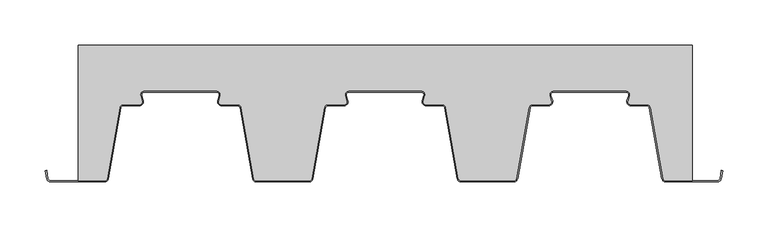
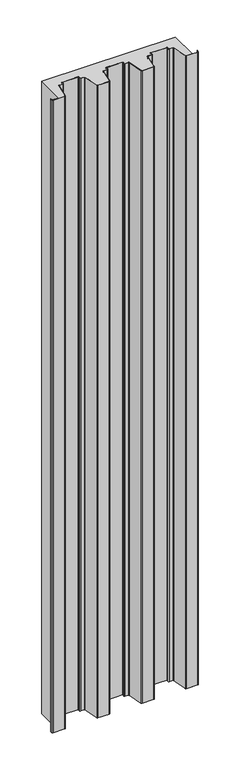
"""IFC4 building model written with IfcOpenShell, lengths in millimetres: plate geometry, HIANSA- H20.F10.003 - FORJADO COLABORANTE - MT-100 - Panel de Muro Cortina : -."""

from ifc_helpers import new_model, si_unit, point, frame_2d, origin, origin_with_axes, place, context, project, spatial, polyline, circle_curve, trimmed, segment, composite_curve, outline, extrude, source, transform, mapped, element, save


def plate_80f7fc45(model_context):
    return source(origin(), model_context, "Body", "SweptSolid", [
        extrude(outline(composite_curve([segment(polyline([(337.4999998, 150.0), (337.4999998, 1.2), (308.5242183, 1.2)]), True, "CONTINUOUS"), segment(trimmed(circle_curve(frame_2d((308.5242183, 4.2)), 3.0), [point((308.5242183, 1.2))], [point((305.569795, 3.6790555))], False, "CARTESIAN"), True, "CONTINUOUS"), segment(polyline([(305.569795, 3.6790555), (291.8426925, 81.5293223)]), True, "CONTINUOUS"), segment(trimmed(circle_curve(frame_2d((287.7065, 80.8)), 4.2), [point((291.8426925, 81.5293223))], [point((287.7065, 85.0))], True, "CARTESIAN"), True, "CONTINUOUS"), segment(polyline([(287.7065, 85.0), (269.9442812, 85.0)]), True, "CONTINUOUS"), segment(trimmed(circle_curve(frame_2d((269.9442812, 88.0)), 3.0), [point((269.9442812, 85.0))], [point((267.0753669, 88.8771151))], False, "CARTESIAN"), True, "CONTINUOUS"), segment(polyline([(267.0753669, 88.8771151), (268.8164798, 94.5720388)]), True, "CONTINUOUS"), segment(trimmed(circle_curve(frame_2d((264.7999998, 95.8)), 4.2), [point((268.8164798, 94.5720388))], [point((264.7999998, 100.0))], True, "CARTESIAN"), True, "CONTINUOUS"), segment(polyline([(264.7999998, 100.0), (185.1999998, 100.0)]), True, "CONTINUOUS"), segment(trimmed(circle_curve(frame_2d((185.1999998, 95.8)), 4.2), [point((185.1999998, 100.0))], [point((181.1835199, 94.5720388))], True, "CARTESIAN"), True, "CONTINUOUS"), segment(polyline([(181.1835199, 94.5720388), (182.9246328, 88.8771151)]), True, "CONTINUOUS"), segment(trimmed(circle_curve(frame_2d((180.0557185, 88.0)), 3.0), [point((182.9246328, 88.8771151))], [point((180.0557185, 85.0))], False, "CARTESIAN"), True, "CONTINUOUS"), segment(polyline([(180.0557185, 85.0), (162.2934997, 85.0)]), True, "CONTINUOUS"), segment(trimmed(circle_curve(frame_2d((162.2934997, 80.8)), 4.2), [point((162.2934997, 85.0))], [point((158.1573072, 81.5293223))], True, "CARTESIAN"), True, "CONTINUOUS"), segment(polyline([(158.1573072, 81.5293223), (144.4302047, 3.6790555)]), True, "CONTINUOUS"), segment(trimmed(circle_curve(frame_2d((141.4757814, 4.2)), 3.0), [point((144.4302047, 3.6790555))], [point((141.4757814, 1.2))], False, "CARTESIAN"), True, "CONTINUOUS"), segment(polyline([(141.4757814, 1.2), (83.5242183, 1.2)]), True, "CONTINUOUS"), segment(trimmed(circle_curve(frame_2d((83.5242183, 4.2)), 3.0), [point((83.5242183, 1.2))], [point((80.569795, 3.6790555))], False, "CARTESIAN"), True, "CONTINUOUS"), segment(polyline([(80.569795, 3.6790555), (66.8426925, 81.5293223)]), True, "CONTINUOUS"), segment(trimmed(circle_curve(frame_2d((62.7065, 80.8)), 4.2), [point((66.8426925, 81.5293223))], [point((62.7065, 85.0))], True, "CARTESIAN"), True, "CONTINUOUS"), segment(polyline([(62.7065, 85.0), (44.9442812, 85.0)]), True, "CONTINUOUS"), segment(trimmed(circle_curve(frame_2d((44.9442812, 88.0)), 3.0), [point((44.9442812, 85.0))], [point((42.0753669, 88.8771151))], False, "CARTESIAN"), True, "CONTINUOUS"), segment(polyline([(42.0753669, 88.8771151), (43.8164798, 94.5720388)]), True, "CONTINUOUS"), segment(trimmed(circle_curve(frame_2d((39.7999998, 95.8)), 4.2), [point((43.8164798, 94.5720388))], [point((39.7999998, 100.0))], True, "CARTESIAN"), True, "CONTINUOUS"), segment(polyline([(39.7999998, 100.0), (-39.8000002, 100.0)]), True, "CONTINUOUS"), segment(trimmed(circle_curve(frame_2d((-39.8000002, 95.8)), 4.2), [point((-39.8000002, 100.0))], [point((-43.8164801, 94.5720388))], True, "CARTESIAN"), True, "CONTINUOUS"), segment(polyline([(-43.8164801, 94.5720388), (-42.0753672, 88.8771151)]), True, "CONTINUOUS"), segment(trimmed(circle_curve(frame_2d((-44.9442815, 88.0)), 3.0), [point((-42.0753672, 88.8771151))], [point((-44.9442815, 85.0))], False, "CARTESIAN"), True, "CONTINUOUS"), segment(polyline([(-44.9442815, 85.0), (-62.7065003, 85.0)]), True, "CONTINUOUS"), segment(trimmed(circle_curve(frame_2d((-62.7065003, 80.8)), 4.2), [point((-62.7065003, 85.0))], [point((-66.8426928, 81.5293223))], True, "CARTESIAN"), True, "CONTINUOUS"), segment(polyline([(-66.8426928, 81.5293223), (-80.5697953, 3.6790555)]), True, "CONTINUOUS"), segment(trimmed(circle_curve(frame_2d((-83.5242186, 4.2)), 3.0), [point((-80.5697953, 3.6790555))], [point((-83.5242186, 1.2))], False, "CARTESIAN"), True, "CONTINUOUS"), segment(polyline([(-83.5242186, 1.2), (-141.4757817, 1.2)]), True, "CONTINUOUS"), segment(trimmed(circle_curve(frame_2d((-141.4757817, 4.2)), 3.0), [point((-141.4757817, 1.2))], [point((-144.430205, 3.6790555))], False, "CARTESIAN"), True, "CONTINUOUS"), segment(polyline([(-144.430205, 3.6790555), (-158.1573075, 81.5293223)]), True, "CONTINUOUS"), segment(trimmed(circle_curve(frame_2d((-162.2935, 80.8)), 4.2), [point((-158.1573075, 81.5293223))], [point((-162.2935, 85.0))], True, "CARTESIAN"), True, "CONTINUOUS"), segment(polyline([(-162.2935, 85.0), (-180.0557188, 85.0)]), True, "CONTINUOUS"), segment(trimmed(circle_curve(frame_2d((-180.0557188, 88.0)), 3.0), [point((-180.0557188, 85.0))], [point((-182.9246331, 88.8771151))], False, "CARTESIAN"), True, "CONTINUOUS"), segment(polyline([(-182.9246331, 88.8771151), (-181.1835202, 94.5720388)]), True, "CONTINUOUS"), segment(trimmed(circle_curve(frame_2d((-185.2000002, 95.8)), 4.2), [point((-181.1835202, 94.5720388))], [point((-185.2000002, 100.0))], True, "CARTESIAN"), True, "CONTINUOUS"), segment(polyline([(-185.2000002, 100.0), (-264.8000002, 100.0)]), True, "CONTINUOUS"), segment(trimmed(circle_curve(frame_2d((-264.8000002, 95.8)), 4.2), [point((-264.8000002, 100.0))], [point((-268.8164801, 94.5720388))], True, "CARTESIAN"), True, "CONTINUOUS"), segment(polyline([(-268.8164801, 94.5720388), (-267.0753672, 88.8771151)]), True, "CONTINUOUS"), segment(trimmed(circle_curve(frame_2d((-269.9442815, 88.0)), 3.0), [point((-267.0753672, 88.8771151))], [point((-269.9442815, 85.0))], False, "CARTESIAN"), True, "CONTINUOUS"), segment(polyline([(-269.9442815, 85.0), (-287.7065003, 85.0)]), True, "CONTINUOUS"), segment(trimmed(circle_curve(frame_2d((-287.7065003, 80.8)), 4.2), [point((-287.7065003, 85.0))], [point((-291.8426928, 81.5293223))], True, "CARTESIAN"), True, "CONTINUOUS"), segment(polyline([(-291.8426928, 81.5293223), (-305.5697953, 3.6790555)]), True, "CONTINUOUS"), segment(trimmed(circle_curve(frame_2d((-308.5242186, 4.2)), 3.0), [point((-305.5697953, 3.6790555))], [point((-308.5242186, 1.2))], False, "CARTESIAN"), True, "CONTINUOUS"), segment(polyline([(-308.5242186, 1.2), (-337.5000002, 1.2), (-337.5000002, 150.0), (337.4999998, 150.0)]), True, "CONTINUOUS")], self_intersect=False)), origin_with_axes(), (0.0, 0.0, 1.0), 3390.8509027),
        extrude(outline(composite_curve([segment(polyline([(308.5242183, 1.2), (365.2572695, 1.2)]), True, "CONTINUOUS"), segment(trimmed(circle_curve(frame_2d((365.2572695, 4.2)), 3.0), [point((365.2572695, 1.2))], [point((368.2116927, 3.6790555))], True, "CARTESIAN"), True, "CONTINUOUS"), segment(polyline([(368.2116927, 3.6790555), (369.8024664, 12.7007812), (370.9842357, 12.4924034), (369.393462, 3.4706777)]), True, "CONTINUOUS"), segment(trimmed(circle_curve(frame_2d((365.2572695, 4.2)), 4.2), [point((369.393462, 3.4706777))], [point((365.2572695, 0.0))], False, "CARTESIAN"), True, "CONTINUOUS"), segment(polyline([(365.2572695, 0.0), (308.5242183, 0.0)]), True, "CONTINUOUS"), segment(trimmed(circle_curve(frame_2d((308.5242183, 4.2)), 4.2), [point((308.5242183, 0.0))], [point((304.3880257, 3.4706777))], False, "CARTESIAN"), True, "CONTINUOUS"), segment(polyline([(304.3880257, 3.4706777), (290.6609232, 81.3209445)]), True, "CONTINUOUS"), segment(trimmed(circle_curve(frame_2d((287.7065, 80.8)), 3.0), [point((290.6609232, 81.3209445))], [point((287.7065, 83.8))], True, "CARTESIAN"), True, "CONTINUOUS"), segment(polyline([(287.7065, 83.8), (269.9442812, 83.8)]), True, "CONTINUOUS"), segment(trimmed(circle_curve(frame_2d((269.9442812, 88.0)), 4.2), [point((269.9442812, 83.8))], [point((265.9278012, 89.2279612))], False, "CARTESIAN"), True, "CONTINUOUS"), segment(polyline([(265.9278012, 89.2279612), (267.6689141, 94.9228849)]), True, "CONTINUOUS"), segment(trimmed(circle_curve(frame_2d((264.7999998, 95.8)), 3.0), [point((267.6689141, 94.9228849))], [point((264.7999998, 98.8))], True, "CARTESIAN"), True, "CONTINUOUS"), segment(polyline([(264.7999998, 98.8), (185.1999998, 98.8)]), True, "CONTINUOUS"), segment(trimmed(circle_curve(frame_2d((185.1999998, 95.8)), 3.0), [point((185.1999998, 98.8))], [point((182.3310856, 94.9228849))], True, "CARTESIAN"), True, "CONTINUOUS"), segment(polyline([(182.3310856, 94.9228849), (184.0721985, 89.2279612)]), True, "CONTINUOUS"), segment(trimmed(circle_curve(frame_2d((180.0557185, 88.0)), 4.2), [point((184.0721985, 89.2279612))], [point((180.0557185, 83.8))], False, "CARTESIAN"), True, "CONTINUOUS"), segment(polyline([(180.0557185, 83.8), (162.2934997, 83.8)]), True, "CONTINUOUS"), segment(trimmed(circle_curve(frame_2d((162.2934997, 80.8)), 3.0), [point((162.2934997, 83.8))], [point((159.3390765, 81.3209445))], True, "CARTESIAN"), True, "CONTINUOUS"), segment(polyline([(159.3390765, 81.3209445), (145.611974, 3.4706777)]), True, "CONTINUOUS"), segment(trimmed(circle_curve(frame_2d((141.4757814, 4.2)), 4.2), [point((145.611974, 3.4706777))], [point((141.4757814, 0.0))], False, "CARTESIAN"), True, "CONTINUOUS"), segment(polyline([(141.4757814, 0.0), (83.5242183, 0.0)]), True, "CONTINUOUS"), segment(trimmed(circle_curve(frame_2d((83.5242183, 4.2)), 4.2), [point((83.5242183, 0.0))], [point((79.3880257, 3.4706777))], False, "CARTESIAN"), True, "CONTINUOUS"), segment(polyline([(79.3880257, 3.4706777), (65.6609232, 81.3209445)]), True, "CONTINUOUS"), segment(trimmed(circle_curve(frame_2d((62.7065, 80.8)), 3.0), [point((65.6609232, 81.3209445))], [point((62.7065, 83.8))], True, "CARTESIAN"), True, "CONTINUOUS"), segment(polyline([(62.7065, 83.8), (44.9442812, 83.8)]), True, "CONTINUOUS"), segment(trimmed(circle_curve(frame_2d((44.9442812, 88.0)), 4.2), [point((44.9442812, 83.8))], [point((40.9278012, 89.2279612))], False, "CARTESIAN"), True, "CONTINUOUS"), segment(polyline([(40.9278012, 89.2279612), (42.6689141, 94.9228849)]), True, "CONTINUOUS"), segment(trimmed(circle_curve(frame_2d((39.7999998, 95.8)), 3.0), [point((42.6689141, 94.9228849))], [point((39.7999998, 98.8))], True, "CARTESIAN"), True, "CONTINUOUS"), segment(polyline([(39.7999998, 98.8), (-39.8000002, 98.8)]), True, "CONTINUOUS"), segment(trimmed(circle_curve(frame_2d((-39.8000002, 95.8)), 3.0), [point((-39.8000002, 98.8))], [point((-42.6689144, 94.9228849))], True, "CARTESIAN"), True, "CONTINUOUS"), segment(polyline([(-42.6689144, 94.9228849), (-40.9278015, 89.2279612)]), True, "CONTINUOUS"), segment(trimmed(circle_curve(frame_2d((-44.9442815, 88.0)), 4.2), [point((-40.9278015, 89.2279612))], [point((-44.9442815, 83.8))], False, "CARTESIAN"), True, "CONTINUOUS"), segment(polyline([(-44.9442815, 83.8), (-62.7065003, 83.8)]), True, "CONTINUOUS"), segment(trimmed(circle_curve(frame_2d((-62.7065003, 80.8)), 3.0), [point((-62.7065003, 83.8))], [point((-65.6609235, 81.3209445))], True, "CARTESIAN"), True, "CONTINUOUS"), segment(polyline([(-65.6609235, 81.3209445), (-79.388026, 3.4706777)]), True, "CONTINUOUS"), segment(trimmed(circle_curve(frame_2d((-83.5242186, 4.2)), 4.2), [point((-79.388026, 3.4706777))], [point((-83.5242186, 0.0))], False, "CARTESIAN"), True, "CONTINUOUS"), segment(polyline([(-83.5242186, 0.0), (-141.4757817, 0.0)]), True, "CONTINUOUS"), segment(trimmed(circle_curve(frame_2d((-141.4757817, 4.2)), 4.2), [point((-141.4757817, 0.0))], [point((-145.6119743, 3.4706777))], False, "CARTESIAN"), True, "CONTINUOUS"), segment(polyline([(-145.6119743, 3.4706777), (-159.3390768, 81.3209445)]), True, "CONTINUOUS"), segment(trimmed(circle_curve(frame_2d((-162.2935, 80.8)), 3.0), [point((-159.3390768, 81.3209445))], [point((-162.2935, 83.8))], True, "CARTESIAN"), True, "CONTINUOUS"), segment(polyline([(-162.2935, 83.8), (-180.0557188, 83.8)]), True, "CONTINUOUS"), segment(trimmed(circle_curve(frame_2d((-180.0557188, 88.0)), 4.2), [point((-180.0557188, 83.8))], [point((-184.0721988, 89.2279612))], False, "CARTESIAN"), True, "CONTINUOUS"), segment(polyline([(-184.0721988, 89.2279612), (-182.3310859, 94.9228849)]), True, "CONTINUOUS"), segment(trimmed(circle_curve(frame_2d((-185.2000002, 95.8)), 3.0), [point((-182.3310859, 94.9228849))], [point((-185.2000002, 98.8))], True, "CARTESIAN"), True, "CONTINUOUS"), segment(polyline([(-185.2000002, 98.8), (-264.8000002, 98.8)]), True, "CONTINUOUS"), segment(trimmed(circle_curve(frame_2d((-264.8000002, 95.8)), 3.0), [point((-264.8000002, 98.8))], [point((-267.6689144, 94.9228849))], True, "CARTESIAN"), True, "CONTINUOUS"), segment(polyline([(-267.6689144, 94.9228849), (-265.9278015, 89.2279612)]), True, "CONTINUOUS"), segment(trimmed(circle_curve(frame_2d((-269.9442815, 88.0)), 4.2), [point((-265.9278015, 89.2279612))], [point((-269.9442815, 83.8))], False, "CARTESIAN"), True, "CONTINUOUS"), segment(polyline([(-269.9442815, 83.8), (-287.7065003, 83.8)]), True, "CONTINUOUS"), segment(trimmed(circle_curve(frame_2d((-287.7065003, 80.8)), 3.0), [point((-287.7065003, 83.8))], [point((-290.6609235, 81.3209445))], True, "CARTESIAN"), True, "CONTINUOUS"), segment(polyline([(-290.6609235, 81.3209445), (-304.388026, 3.4706777)]), True, "CONTINUOUS"), segment(trimmed(circle_curve(frame_2d((-308.5242186, 4.2)), 4.2), [point((-304.388026, 3.4706777))], [point((-308.5242186, 0.0))], False, "CARTESIAN"), True, "CONTINUOUS"), segment(polyline([(-308.5242186, 0.0), (-367.6942936, 0.0)]), True, "CONTINUOUS"), segment(trimmed(circle_curve(frame_2d((-367.6942936, 4.2)), 4.2), [point((-367.6942936, 0.0))], [point((-371.8304862, 3.4706777))], False, "CARTESIAN"), True, "CONTINUOUS"), segment(polyline([(-371.8304862, 3.4706777), (-373.4212599, 12.4924034), (-372.2394905, 12.7007812), (-370.6487169, 3.6790555)]), True, "CONTINUOUS"), segment(trimmed(circle_curve(frame_2d((-367.6942936, 4.2)), 3.0), [point((-370.6487169, 3.6790555))], [point((-367.6942936, 1.2))], True, "CARTESIAN"), True, "CONTINUOUS"), segment(polyline([(-367.6942936, 1.2), (-308.5242186, 1.2)]), True, "CONTINUOUS"), segment(trimmed(circle_curve(frame_2d((-308.5242186, 4.2)), 3.0), [point((-308.5242186, 1.2))], [point((-305.5697953, 3.6790555))], True, "CARTESIAN"), True, "CONTINUOUS"), segment(polyline([(-305.5697953, 3.6790555), (-291.8426928, 81.5293223)]), True, "CONTINUOUS"), segment(trimmed(circle_curve(frame_2d((-287.7065003, 80.8)), 4.2), [point((-291.8426928, 81.5293223))], [point((-287.7065003, 85.0))], False, "CARTESIAN"), True, "CONTINUOUS"), segment(polyline([(-287.7065003, 85.0), (-269.9442815, 85.0)]), True, "CONTINUOUS"), segment(trimmed(circle_curve(frame_2d((-269.9442815, 88.0)), 3.0), [point((-269.9442815, 85.0))], [point((-267.0753672, 88.8771151))], True, "CARTESIAN"), True, "CONTINUOUS"), segment(polyline([(-267.0753672, 88.8771151), (-268.8164801, 94.5720388)]), True, "CONTINUOUS"), segment(trimmed(circle_curve(frame_2d((-264.8000002, 95.8)), 4.2), [point((-268.8164801, 94.5720388))], [point((-264.8000002, 100.0))], False, "CARTESIAN"), True, "CONTINUOUS"), segment(polyline([(-264.8000002, 100.0), (-185.2000002, 100.0)]), True, "CONTINUOUS"), segment(trimmed(circle_curve(frame_2d((-185.2000002, 95.8)), 4.2), [point((-185.2000002, 100.0))], [point((-181.1835202, 94.5720388))], False, "CARTESIAN"), True, "CONTINUOUS"), segment(polyline([(-181.1835202, 94.5720388), (-182.9246331, 88.8771151)]), True, "CONTINUOUS"), segment(trimmed(circle_curve(frame_2d((-180.0557188, 88.0)), 3.0), [point((-182.9246331, 88.8771151))], [point((-180.0557188, 85.0))], True, "CARTESIAN"), True, "CONTINUOUS"), segment(polyline([(-180.0557188, 85.0), (-162.2935, 85.0)]), True, "CONTINUOUS"), segment(trimmed(circle_curve(frame_2d((-162.2935, 80.8)), 4.2), [point((-162.2935, 85.0))], [point((-158.1573075, 81.5293223))], False, "CARTESIAN"), True, "CONTINUOUS"), segment(polyline([(-158.1573075, 81.5293223), (-144.430205, 3.6790555)]), True, "CONTINUOUS"), segment(trimmed(circle_curve(frame_2d((-141.4757817, 4.2)), 3.0), [point((-144.430205, 3.6790555))], [point((-141.4757817, 1.2))], True, "CARTESIAN"), True, "CONTINUOUS"), segment(polyline([(-141.4757817, 1.2), (-83.5242186, 1.2)]), True, "CONTINUOUS"), segment(trimmed(circle_curve(frame_2d((-83.5242186, 4.2)), 3.0), [point((-83.5242186, 1.2))], [point((-80.5697953, 3.6790555))], True, "CARTESIAN"), True, "CONTINUOUS"), segment(polyline([(-80.5697953, 3.6790555), (-66.8426928, 81.5293223)]), True, "CONTINUOUS"), segment(trimmed(circle_curve(frame_2d((-62.7065003, 80.8)), 4.2), [point((-66.8426928, 81.5293223))], [point((-62.7065003, 85.0))], False, "CARTESIAN"), True, "CONTINUOUS"), segment(polyline([(-62.7065003, 85.0), (-44.9442815, 85.0)]), True, "CONTINUOUS"), segment(trimmed(circle_curve(frame_2d((-44.9442815, 88.0)), 3.0), [point((-44.9442815, 85.0))], [point((-42.0753672, 88.8771151))], True, "CARTESIAN"), True, "CONTINUOUS"), segment(polyline([(-42.0753672, 88.8771151), (-43.8164801, 94.5720388)]), True, "CONTINUOUS"), segment(trimmed(circle_curve(frame_2d((-39.8000002, 95.8)), 4.2), [point((-43.8164801, 94.5720388))], [point((-39.8000002, 100.0))], False, "CARTESIAN"), True, "CONTINUOUS"), segment(polyline([(-39.8000002, 100.0), (39.7999998, 100.0)]), True, "CONTINUOUS"), segment(trimmed(circle_curve(frame_2d((39.7999998, 95.8)), 4.2), [point((39.7999998, 100.0))], [point((43.8164798, 94.5720388))], False, "CARTESIAN"), True, "CONTINUOUS"), segment(polyline([(43.8164798, 94.5720388), (42.0753669, 88.8771151)]), True, "CONTINUOUS"), segment(trimmed(circle_curve(frame_2d((44.9442812, 88.0)), 3.0), [point((42.0753669, 88.8771151))], [point((44.9442812, 85.0))], True, "CARTESIAN"), True, "CONTINUOUS"), segment(polyline([(44.9442812, 85.0), (62.7065, 85.0)]), True, "CONTINUOUS"), segment(trimmed(circle_curve(frame_2d((62.7065, 80.8)), 4.2), [point((62.7065, 85.0))], [point((66.8426925, 81.5293223))], False, "CARTESIAN"), True, "CONTINUOUS"), segment(polyline([(66.8426925, 81.5293223), (80.569795, 3.6790555)]), True, "CONTINUOUS"), segment(trimmed(circle_curve(frame_2d((83.5242183, 4.2)), 3.0), [point((80.569795, 3.6790555))], [point((83.5242183, 1.2))], True, "CARTESIAN"), True, "CONTINUOUS"), segment(polyline([(83.5242183, 1.2), (141.4757814, 1.2)]), True, "CONTINUOUS"), segment(trimmed(circle_curve(frame_2d((141.4757814, 4.2)), 3.0), [point((141.4757814, 1.2))], [point((144.4302047, 3.6790555))], True, "CARTESIAN"), True, "CONTINUOUS"), segment(polyline([(144.4302047, 3.6790555), (158.1573072, 81.5293223)]), True, "CONTINUOUS"), segment(trimmed(circle_curve(frame_2d((162.2934997, 80.8)), 4.2), [point((158.1573072, 81.5293223))], [point((162.2934997, 85.0))], False, "CARTESIAN"), True, "CONTINUOUS"), segment(polyline([(162.2934997, 85.0), (180.0557185, 85.0)]), True, "CONTINUOUS"), segment(trimmed(circle_curve(frame_2d((180.0557185, 88.0)), 3.0), [point((180.0557185, 85.0))], [point((182.9246328, 88.8771151))], True, "CARTESIAN"), True, "CONTINUOUS"), segment(polyline([(182.9246328, 88.8771151), (181.1835199, 94.5720388)]), True, "CONTINUOUS"), segment(trimmed(circle_curve(frame_2d((185.1999998, 95.8)), 4.2), [point((181.1835199, 94.5720388))], [point((185.1999998, 100.0))], False, "CARTESIAN"), True, "CONTINUOUS"), segment(polyline([(185.1999998, 100.0), (264.7999998, 100.0)]), True, "CONTINUOUS"), segment(trimmed(circle_curve(frame_2d((264.7999998, 95.8)), 4.2), [point((264.7999998, 100.0))], [point((268.8164798, 94.5720388))], False, "CARTESIAN"), True, "CONTINUOUS"), segment(polyline([(268.8164798, 94.5720388), (267.0753669, 88.8771151)]), True, "CONTINUOUS"), segment(trimmed(circle_curve(frame_2d((269.9442812, 88.0)), 3.0), [point((267.0753669, 88.8771151))], [point((269.9442812, 85.0))], True, "CARTESIAN"), True, "CONTINUOUS"), segment(polyline([(269.9442812, 85.0), (287.7065, 85.0)]), True, "CONTINUOUS"), segment(trimmed(circle_curve(frame_2d((287.7065, 80.8)), 4.2), [point((287.7065, 85.0))], [point((291.8426925, 81.5293223))], False, "CARTESIAN"), True, "CONTINUOUS"), segment(polyline([(291.8426925, 81.5293223), (305.569795, 3.6790555)]), True, "CONTINUOUS"), segment(trimmed(circle_curve(frame_2d((308.5242183, 4.2)), 3.0), [point((305.569795, 3.6790555))], [point((308.5242183, 1.2))], True, "CARTESIAN"), True, "CONTINUOUS")], self_intersect=False)), origin_with_axes(), (0.0, 0.0, 1.0), 3390.8509027),
    ])


if __name__ == "__main__":
    model = new_model("IFC4")
    model_context = context("Model", 3, world=origin())
    ifc_project = project(units=[si_unit("LENGTHUNIT", "METRE", prefix="MILLI")], contexts=[model_context])
    site = spatial("IfcSite", under=ifc_project)
    building = spatial("IfcBuilding", under=site)
    placement = place(None, origin())
    plate_shape = plate_80f7fc45(model_context)
    element("IfcPlate", 1, ObjectType="HIANSA- H20.F10.003 - FORJADO COLABORANTE - MT-100 - Panel de Muro Cortina : -", at=placement, inside=building, context=model_context, shape_type="MappedRepresentation", body=[
        mapped(plate_shape, transform((0.0, 0.0, 0.0), x_axis=(1.0, 0.0, 0.0), y_axis=(0.0, 1.0, 0.0), z_axis=(0.0, 0.0, 1.0))),
    ])
    save(model, "model.ifc")
